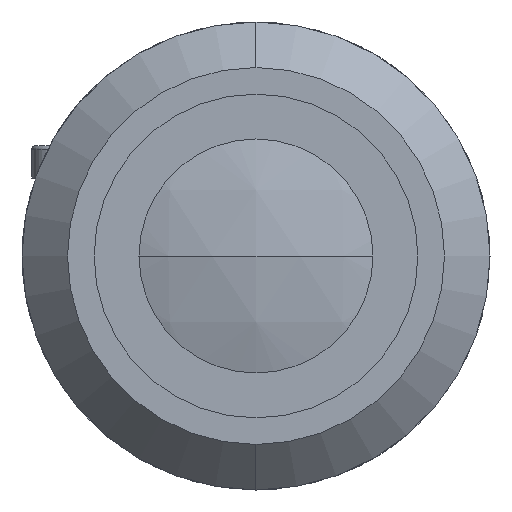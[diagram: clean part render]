
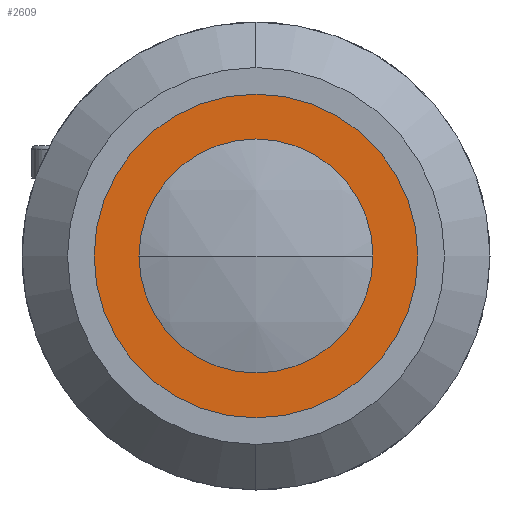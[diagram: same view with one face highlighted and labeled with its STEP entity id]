
A CAD part, left-side view. The second image highlights one B-rep face of the part: STEP entity #2609.
In plain terms, the highlighted planar face has unit normal (-1, 0, 0).
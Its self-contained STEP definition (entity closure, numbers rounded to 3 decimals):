
#15 = CIRCLE ( 'NONE', #732, 13.2 ) ;
#57 = DIRECTION ( 'NONE',  ( 0., 0., 1. ) ) ;
#138 = DIRECTION ( 'NONE',  ( 0., 0., 1. ) ) ;
#247 = CARTESIAN_POINT ( 'NONE',  ( 3.5, 0., -9. ) ) ;
#351 = CIRCLE ( 'NONE', #1028, 9. ) ;
#397 = CARTESIAN_POINT ( 'NONE',  ( 3.5, 0., -13.2 ) ) ;
#413 = VERTEX_POINT ( 'NONE', #2528 ) ;
#571 = FACE_OUTER_BOUND ( 'NONE', #619, .T. ) ;
#617 = CIRCLE ( 'NONE', #1647, 13.2 ) ;
#619 = EDGE_LOOP ( 'NONE', ( #2994, #3150 ) ) ;
#668 = FACE_BOUND ( 'NONE', #823, .T. ) ;
#732 = AXIS2_PLACEMENT_3D ( 'NONE', #3527, #1894, #138 ) ;
#823 = EDGE_LOOP ( 'NONE', ( #2231, #2493 ) ) ;
#980 = CARTESIAN_POINT ( 'NONE',  ( 3.5, 0., 0. ) ) ;
#1028 = AXIS2_PLACEMENT_3D ( 'NONE', #980, #2992, #1260 ) ;
#1088 = EDGE_CURVE ( 'NONE', #1458, #1724, #617, .T. ) ;
#1167 = PLANE ( 'NONE',  #1405 ) ;
#1196 = CIRCLE ( 'NONE', #2773, 9. ) ;
#1260 = DIRECTION ( 'NONE',  ( 0., 0., 1. ) ) ;
#1405 = AXIS2_PLACEMENT_3D ( 'NONE', #2326, #3655, #2047 ) ;
#1458 = VERTEX_POINT ( 'NONE', #397 ) ;
#1569 = DIRECTION ( 'NONE',  ( -1., 0., 0. ) ) ;
#1647 = AXIS2_PLACEMENT_3D ( 'NONE', #3259, #1569, #3508 ) ;
#1693 = CARTESIAN_POINT ( 'NONE',  ( 3.5, 0., 13.2 ) ) ;
#1724 = VERTEX_POINT ( 'NONE', #1693 ) ;
#1809 = DIRECTION ( 'NONE',  ( -1., 0., 0. ) ) ;
#1894 = DIRECTION ( 'NONE',  ( -1., 0., 0. ) ) ;
#2047 = DIRECTION ( 'NONE',  ( 0., 0., -1. ) ) ;
#2231 = ORIENTED_EDGE ( 'NONE', *, *, #2821, .F. ) ;
#2326 = CARTESIAN_POINT ( 'NONE',  ( 3.5, 13.2, 0. ) ) ;
#2493 = ORIENTED_EDGE ( 'NONE', *, *, #3545, .F. ) ;
#2528 = CARTESIAN_POINT ( 'NONE',  ( 3.5, 0., 9. ) ) ;
#2609 = ADVANCED_FACE ( 'NONE', ( #668, #571 ), #1167, .F. ) ;
#2773 = AXIS2_PLACEMENT_3D ( 'NONE', #3464, #1809, #57 ) ;
#2821 = EDGE_CURVE ( 'NONE', #413, #3266, #351, .T. ) ;
#2898 = EDGE_CURVE ( 'NONE', #1724, #1458, #15, .T. ) ;
#2992 = DIRECTION ( 'NONE',  ( -1., 0., 0. ) ) ;
#2994 = ORIENTED_EDGE ( 'NONE', *, *, #2898, .T. ) ;
#3150 = ORIENTED_EDGE ( 'NONE', *, *, #1088, .T. ) ;
#3259 = CARTESIAN_POINT ( 'NONE',  ( 3.5, 0., 0. ) ) ;
#3266 = VERTEX_POINT ( 'NONE', #247 ) ;
#3464 = CARTESIAN_POINT ( 'NONE',  ( 3.5, 0., 0. ) ) ;
#3508 = DIRECTION ( 'NONE',  ( 0., 0., 1. ) ) ;
#3527 = CARTESIAN_POINT ( 'NONE',  ( 3.5, 0., 0. ) ) ;
#3545 = EDGE_CURVE ( 'NONE', #3266, #413, #1196, .T. ) ;
#3655 = DIRECTION ( 'NONE',  ( 1., 0., 0. ) ) ;
